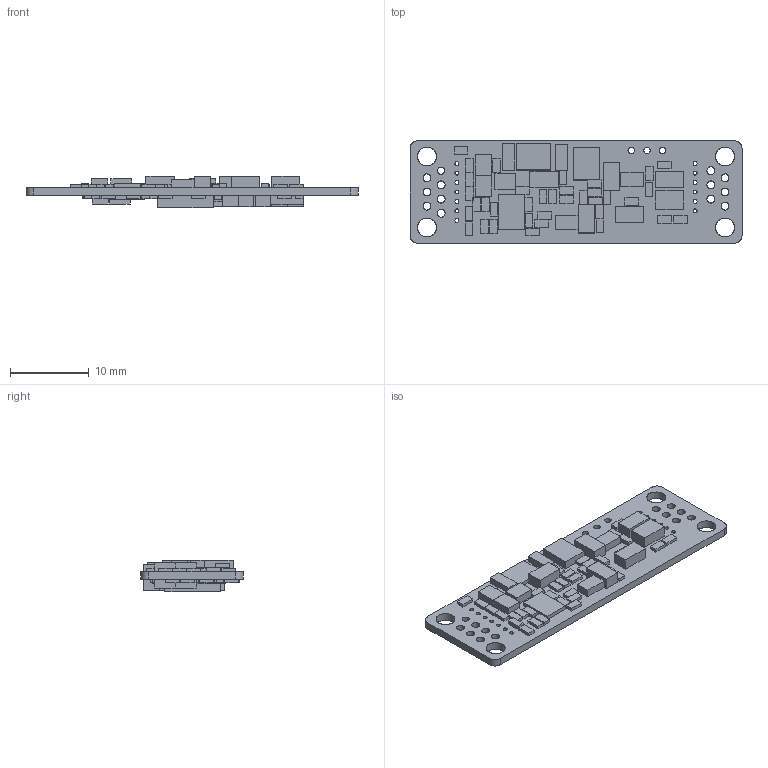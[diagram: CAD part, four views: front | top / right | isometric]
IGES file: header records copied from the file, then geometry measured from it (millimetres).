
Start section: SolidWorks IGES file using analytic representation for surfaces
Global section: file name: C:\Zettlex Data\Mechanical Drawings\4114\37mm Electronics Module Rev 1-0.IGS; native system: SolidWorks 2015; preprocessor: SolidWorks 2015; author: Nigel; date: 150914.112517; units: millimetre
Bounding box: 42.1 x 13 x 4.05 mm (x, y, z)
Surface area: 2599 mm2 (no closed solid volume)
Topology: 0 solids, 0 shells, 659 faces, 3886 edges, 3886 vertices
Faces by surface type: bspline 589, revolution 70
